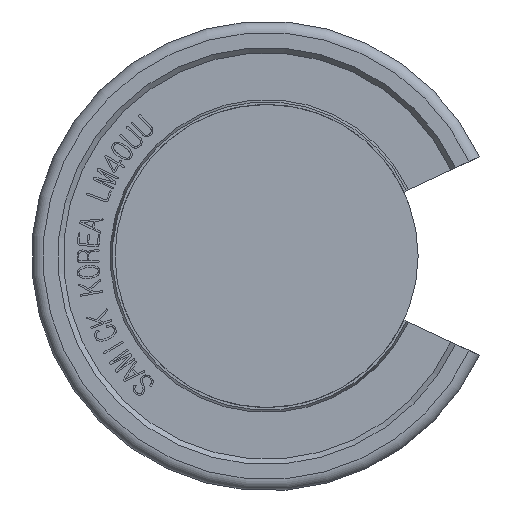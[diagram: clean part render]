
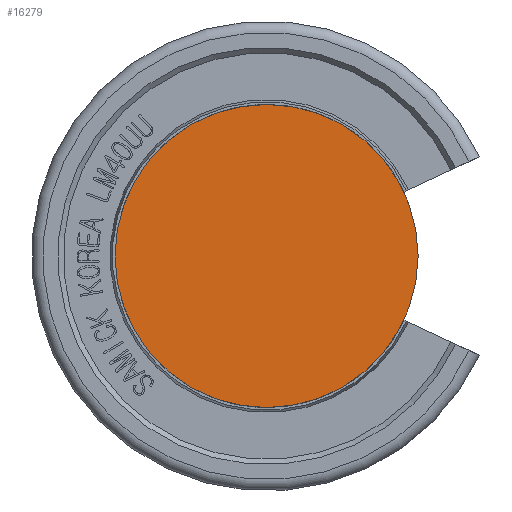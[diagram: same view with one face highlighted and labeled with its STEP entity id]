
A CAD part, front view. The second image highlights one B-rep face of the part: STEP entity #16279.
In plain terms, the highlighted planar face has unit normal (0, -1, 0).
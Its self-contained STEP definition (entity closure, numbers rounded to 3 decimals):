
#53=CIRCLE('',#16580,20.);
#341=PLANE('',#16582);
#1164=FACE_OUTER_BOUND('',#2038,.T.);
#2038=EDGE_LOOP('',(#14061));
#7081=VERTEX_POINT('',#28197);
#9415=EDGE_CURVE('',#7081,#7081,#53,.T.);
#14061=ORIENTED_EDGE('',*,*,#9415,.F.);
#16279=ADVANCED_FACE('',(#1164),#341,.T.);
#16580=AXIS2_PLACEMENT_3D('',#28199,#18303,#18304);
#16582=AXIS2_PLACEMENT_3D('',#28201,#18307,#18308);
#18303=DIRECTION('center_axis',(0.,1.,0.));
#18304=DIRECTION('ref_axis',(1.,0.,0.));
#18307=DIRECTION('center_axis',(0.,-1.,0.));
#18308=DIRECTION('ref_axis',(0.,0.,-1.));
#28197=CARTESIAN_POINT('',(-20.,-65.,0.));
#28199=CARTESIAN_POINT('Origin',(0.,-65.,0.));
#28201=CARTESIAN_POINT('Origin',(0.,-65.,0.));
